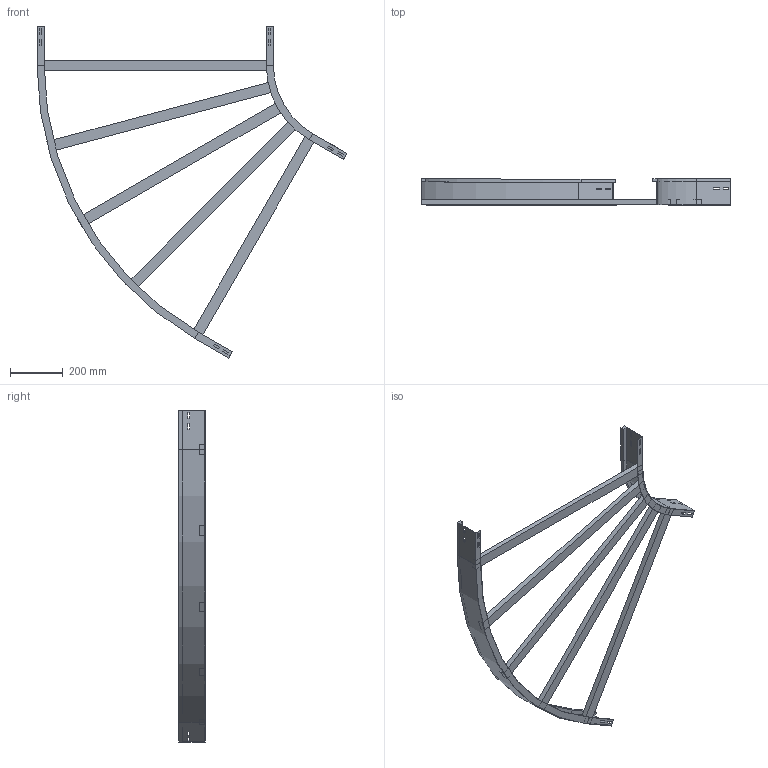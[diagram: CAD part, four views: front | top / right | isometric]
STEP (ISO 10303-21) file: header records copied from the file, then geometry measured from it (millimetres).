
FILE_DESCRIPTION (( 'STEP AP214' ), '1' );
FILE_NAME ('A2_13B3D900.step', '2025-02-21T15:18:04', ( '' ), ( '' ), 'SwSTEP 2.0', 'SolidWorks 2023', '' );
FILE_SCHEMA (( 'AUTOMOTIVE_DESIGN' ));
Length unit declared in the file: millimetre
Products named in the file (4): A2_13B3D900; TRAVERSINO_900; A2_LONGH.INTERNO 60°_H100_R300; A2_LONGH.ESTERNO 60°_H100_R300+900
Assembly tree (7 placements, depth 2):
  A2_13B3D900
    A2_LONGH.INTERNO 60°_H100_R300
    A2_LONGH.ESTERNO 60°_H100_R300+900
    TRAVERSINO_900  x5
Bounding box: 1179.9 x 100 x 1264.23 mm (x, y, z)
Volume: 4583364 mm3; surface area: 1169723.7 mm2
Topology: 7 solids, 7 shells, 146 faces, 364 edges, 232 vertices
Faces by surface type: plane 138, cylinder 8
Entity records: 3837 total; most frequent: CARTESIAN_POINT 648, ORIENTED_EDGE 632, DIRECTION 596, EDGE_CURVE 316, LINE 300, VECTOR 300, VERTEX_POINT 200, EDGE_LOOP 154
